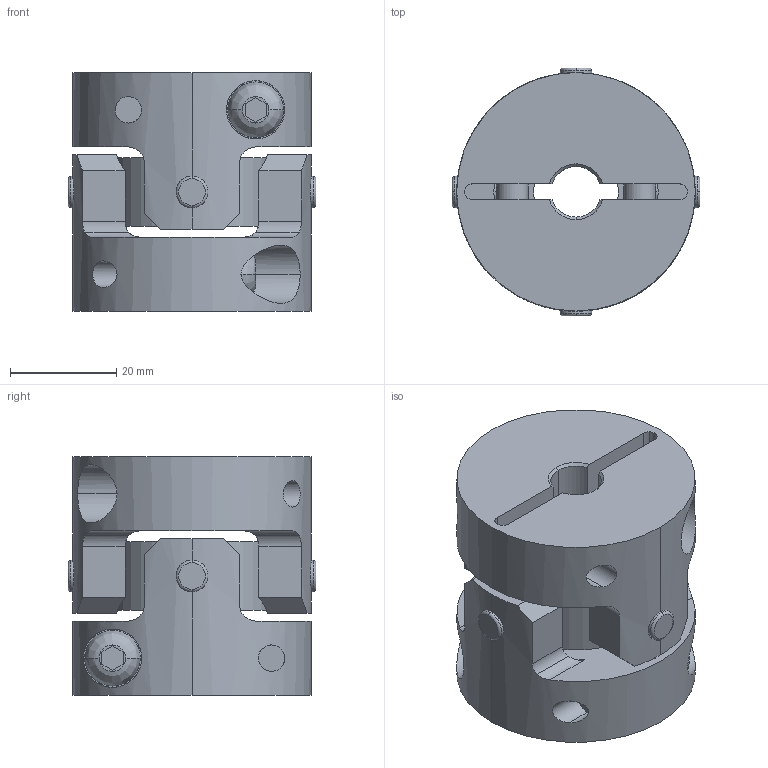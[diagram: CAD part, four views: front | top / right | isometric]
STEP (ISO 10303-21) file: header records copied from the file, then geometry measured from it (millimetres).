
FILE_DESCRIPTION((''),'2;1');
FILE_NAME('UA-45C-9.525×19.stp','2013-11-19T08:42:33',(''),(''),'AutoCAD STEP 2000i','AutoCAD 2000i',', , ');
FILE_SCHEMA(('CONFIG_CONTROL_DESIGN'));
Length unit declared in the file: millimetre
Products named in the file (7): UA-45C-8×17; 忣兜1; UA-4502-D17; BTN-M6; UA-4502-D08-1; UA-4502-D08; UA45-SEN
Assembly tree (8 placements, depth 3):
  UA-45C-8×17
    忣兜1
    UA-4502-D17
      BTN-M6
    UA-4502-D08-1
      BTN-M6
    UA-4502-D08
      BTN-M6
    UA45-SEN
Bounding box: 46.73 x 46.73 x 45 mm (x, y, z)
Volume: 49207.8 mm3; surface area: 19799.1 mm2
Topology: 1 solids, 1 shells, 206 faces, 554 edges, 364 vertices
Faces by surface type: cylinder 96, plane 78, cone 16, bspline 8, torus 8
Entity records: 8537 total; most frequent: CARTESIAN_POINT 3201, ORIENTED_EDGE 1108, DIRECTION 1068, EDGE_CURVE 554, AXIS2_PLACEMENT_3D 411, VERTEX_POINT 364, VECTOR 246, LINE 246
